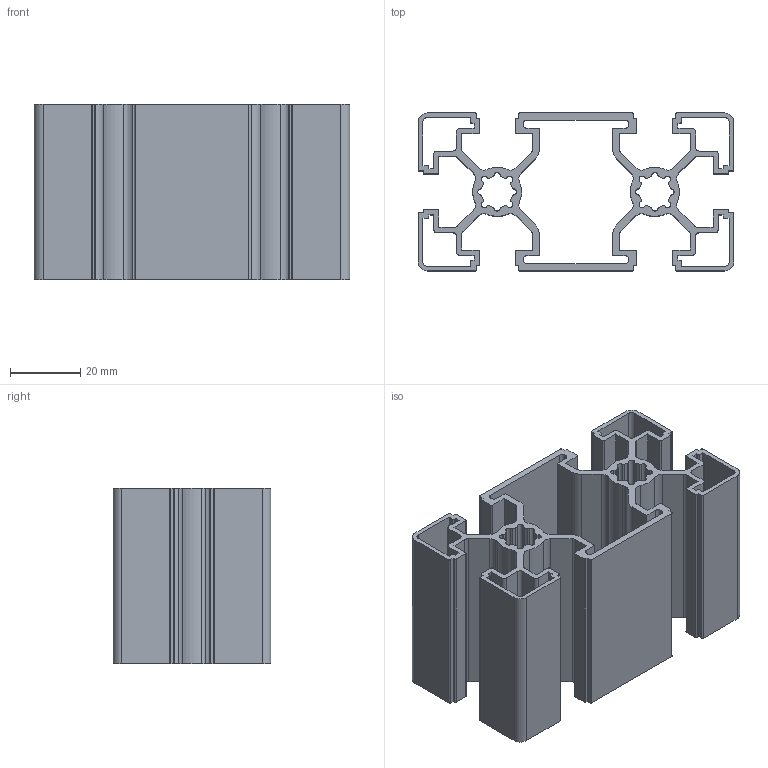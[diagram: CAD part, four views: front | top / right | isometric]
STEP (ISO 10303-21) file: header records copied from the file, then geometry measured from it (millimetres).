
FILE_DESCRIPTION (( 'STEP AP203' ), '1' );
FILE_NAME ('45X90 HAFÝF.STEP', '2018-04-06T08:38:46', ( '' ), ( '' ), 'SwSTEP 2.0', 'SolidWorks 2014', '' );
FILE_SCHEMA (( 'CONFIG_CONTROL_DESIGN' ));
Length unit declared in the file: millimetre
Products named in the file (1): 45X90 HAFÝF
Bounding box: 90 x 45 x 50 mm (x, y, z)
Volume: 44616.6 mm3; surface area: 52454.8 mm2
Topology: 1 solids, 1 shells, 358 faces, 1068 edges, 712 vertices
Faces by surface type: cylinder 192, plane 166
Entity records: 12261 total; most frequent: DIRECTION 2170, CARTESIAN_POINT 2139, ORIENTED_EDGE 2136, EDGE_CURVE 1068, AXIS2_PLACEMENT_3D 743, VERTEX_POINT 712, LINE 684, VECTOR 684
